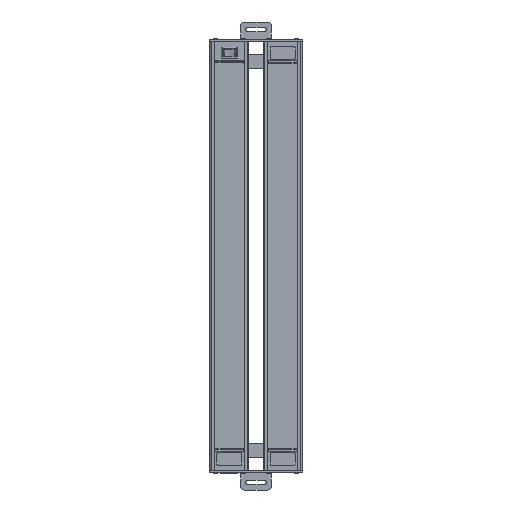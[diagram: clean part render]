
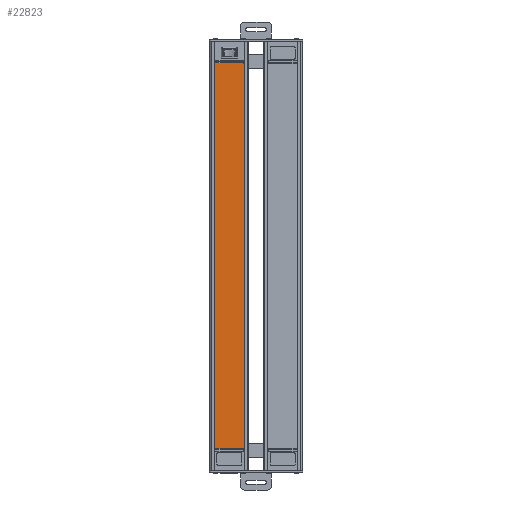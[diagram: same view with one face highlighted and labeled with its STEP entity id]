
A CAD part, front view. The second image highlights one B-rep face of the part: STEP entity #22823.
In plain terms, the highlighted planar face has unit normal (0, -1, 0).
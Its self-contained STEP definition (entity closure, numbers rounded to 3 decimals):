
#43 = DIRECTION ( 'NONE',  ( 0., 0., -1. ) ) ;
#1395 = ORIENTED_EDGE ( 'NONE', *, *, #1871, .F. ) ;
#1492 = VERTEX_POINT ( 'NONE', #2869 ) ;
#1851 = ORIENTED_EDGE ( 'NONE', *, *, #9644, .F. ) ;
#1871 = EDGE_CURVE ( 'NONE', #1492, #2796, #21015, .T. ) ;
#2244 = CARTESIAN_POINT ( 'NONE',  ( 21., -4.65, -537. ) ) ;
#2557 = EDGE_CURVE ( 'NONE', #21833, #19717, #19395, .T. ) ;
#2796 = VERTEX_POINT ( 'NONE', #25256 ) ;
#2869 = CARTESIAN_POINT ( 'NONE',  ( -21., -4.65, -27. ) ) ;
#3874 = CARTESIAN_POINT ( 'NONE',  ( -21., -4.65, -537. ) ) ;
#4142 = LINE ( 'NONE', #18910, #8261 ) ;
#5386 = PLANE ( 'NONE',  #9517 ) ;
#5814 = DIRECTION ( 'NONE',  ( 0., -1., 0. ) ) ;
#8246 = CARTESIAN_POINT ( 'NONE',  ( -21., -4.65, -27. ) ) ;
#8261 = VECTOR ( 'NONE', #43, 1000. ) ;
#9517 = AXIS2_PLACEMENT_3D ( 'NONE', #17509, #5814, #17847 ) ;
#9644 = EDGE_CURVE ( 'NONE', #2796, #21833, #4142, .T. ) ;
#10753 = VECTOR ( 'NONE', #18349, 1000. ) ;
#12017 = FACE_OUTER_BOUND ( 'NONE', #12724, .T. ) ;
#12464 = VECTOR ( 'NONE', #14644, 1000. ) ;
#12724 = EDGE_LOOP ( 'NONE', ( #16291, #1851, #1395, #19175 ) ) ;
#12932 = DIRECTION ( 'NONE',  ( 1., 0., 0. ) ) ;
#14644 = DIRECTION ( 'NONE',  ( -1., 0., 0. ) ) ;
#16291 = ORIENTED_EDGE ( 'NONE', *, *, #2557, .F. ) ;
#16974 = CARTESIAN_POINT ( 'NONE',  ( 21., -4.65, -27. ) ) ;
#17509 = CARTESIAN_POINT ( 'NONE',  ( -21., -4.65, -537. ) ) ;
#17847 = DIRECTION ( 'NONE',  ( -1., 0., 0. ) ) ;
#18349 = DIRECTION ( 'NONE',  ( 0., 0., 1. ) ) ;
#18861 = CARTESIAN_POINT ( 'NONE',  ( 21., -4.65, -537. ) ) ;
#18910 = CARTESIAN_POINT ( 'NONE',  ( 21., -4.65, -27. ) ) ;
#19175 = ORIENTED_EDGE ( 'NONE', *, *, #20367, .F. ) ;
#19395 = LINE ( 'NONE', #18861, #12464 ) ;
#19717 = VERTEX_POINT ( 'NONE', #3874 ) ;
#20367 = EDGE_CURVE ( 'NONE', #19717, #1492, #24867, .T. ) ;
#21015 = LINE ( 'NONE', #16974, #21936 ) ;
#21833 = VERTEX_POINT ( 'NONE', #2244 ) ;
#21936 = VECTOR ( 'NONE', #12932, 1000. ) ;
#22823 = ADVANCED_FACE ( 'NONE', ( #12017 ), #5386, .T. ) ;
#24867 = LINE ( 'NONE', #8246, #10753 ) ;
#25256 = CARTESIAN_POINT ( 'NONE',  ( 21., -4.65, -27. ) ) ;
